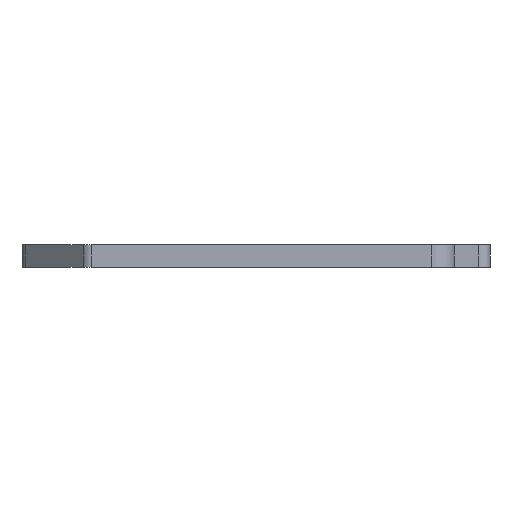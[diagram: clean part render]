
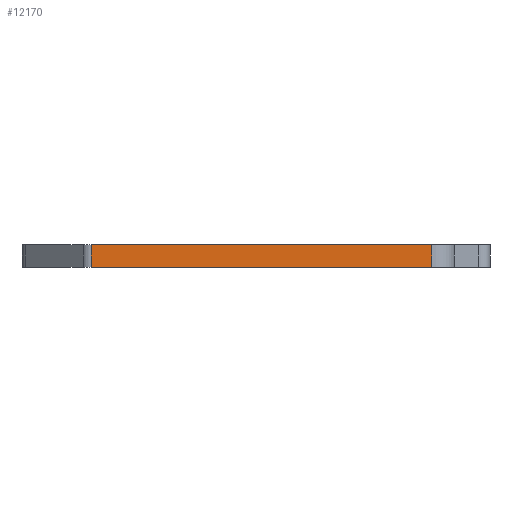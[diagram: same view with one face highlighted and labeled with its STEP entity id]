
A CAD part, left-side view. The second image highlights one B-rep face of the part: STEP entity #12170.
In plain terms, the highlighted planar face has unit normal (-1, 0, 0).
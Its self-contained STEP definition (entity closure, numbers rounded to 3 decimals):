
#890=CARTESIAN_POINT('',(-69.7,29.586,0.));
#900=VERTEX_POINT('',#890);
#930=CARTESIAN_POINT('',(-69.7,29.586,0.));
#940=DIRECTION('',(0.,-1.,0.));
#950=VECTOR('',#940,1.);
#960=LINE('',#930,#950);
#970=CARTESIAN_POINT('',(-69.7,-0.8,0.));
#980=VERTEX_POINT('',#970);
#990=EDGE_CURVE('',#900,#980,#960,.T.);
#5850=CARTESIAN_POINT('',(-69.7,-0.8,2.));
#5860=VERTEX_POINT('',#5850);
#5890=CARTESIAN_POINT('',(-69.7,29.586,2.));
#5900=DIRECTION('',(0.,-1.,0.));
#5910=VECTOR('',#5900,1.);
#5920=LINE('',#5890,#5910);
#5930=CARTESIAN_POINT('',(-69.7,29.586,2.));
#5940=VERTEX_POINT('',#5930);
#5950=EDGE_CURVE('',#5940,#5860,#5920,.T.);
#11910=CARTESIAN_POINT('',(-69.7,29.586,0.));
#11920=DIRECTION('',(0.,0.,1.));
#11930=VECTOR('',#11920,1.);
#11940=LINE('',#11910,#11930);
#11950=EDGE_CURVE('',#900,#5940,#11940,.T.);
#12010=CARTESIAN_POINT('',(-69.7,-0.8,0.));
#12020=DIRECTION('',(-1.,0.,0.));
#12030=DIRECTION('',(0.,1.,0.));
#12040=AXIS2_PLACEMENT_3D('',#12010,#12020,#12030);
#12050=PLANE('',#12040);
#12060=ORIENTED_EDGE('',*,*,#11950,.F.);
#12070=ORIENTED_EDGE('',*,*,#5950,.F.);
#12080=CARTESIAN_POINT('',(-69.7,-0.8,0.));
#12090=DIRECTION('',(0.,0.,1.));
#12100=VECTOR('',#12090,1.);
#12110=LINE('',#12080,#12100);
#12120=EDGE_CURVE('',#980,#5860,#12110,.T.);
#12130=ORIENTED_EDGE('',*,*,#12120,.T.);
#12140=ORIENTED_EDGE('',*,*,#990,.T.);
#12150=EDGE_LOOP('',(#12140,#12130,#12070,#12060));
#12160=FACE_OUTER_BOUND('',#12150,.T.);
#12170=ADVANCED_FACE('',(#12160),#12050,.T.);
